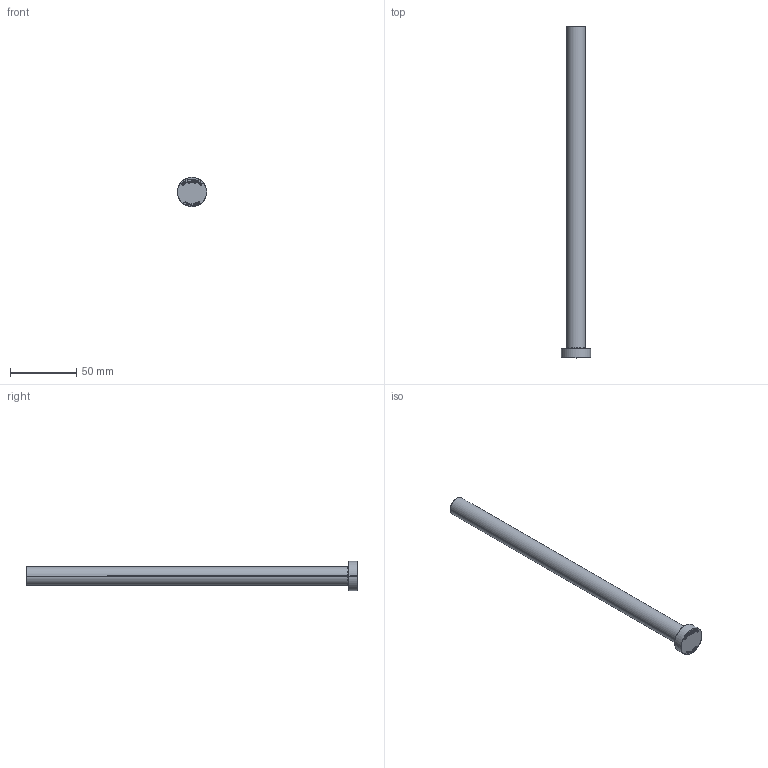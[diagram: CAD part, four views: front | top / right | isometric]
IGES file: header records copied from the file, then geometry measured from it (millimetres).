
Start section: SolidWorks IGES file using analytic representation for surfaces
Global section: file name: C:\Users\User\Downloads\Matripeça 31-08 tar\PB - PINO EXTRATOR TIPO _B_ (CATÁLOGO)\PB14,0\PB14,0250.IGS; native system: SolidWorks 2024; preprocessor: SolidWorks 2024; author: User; date: 260901.154554; units: millimetre
Bounding box: 22 x 250 x 22 mm (x, y, z)
Surface area: 11934.2 mm2 (no closed solid volume)
Topology: 0 solids, 0 shells, 402 faces, 4083 edges, 4083 vertices
Faces by surface type: bspline 388, revolution 14
